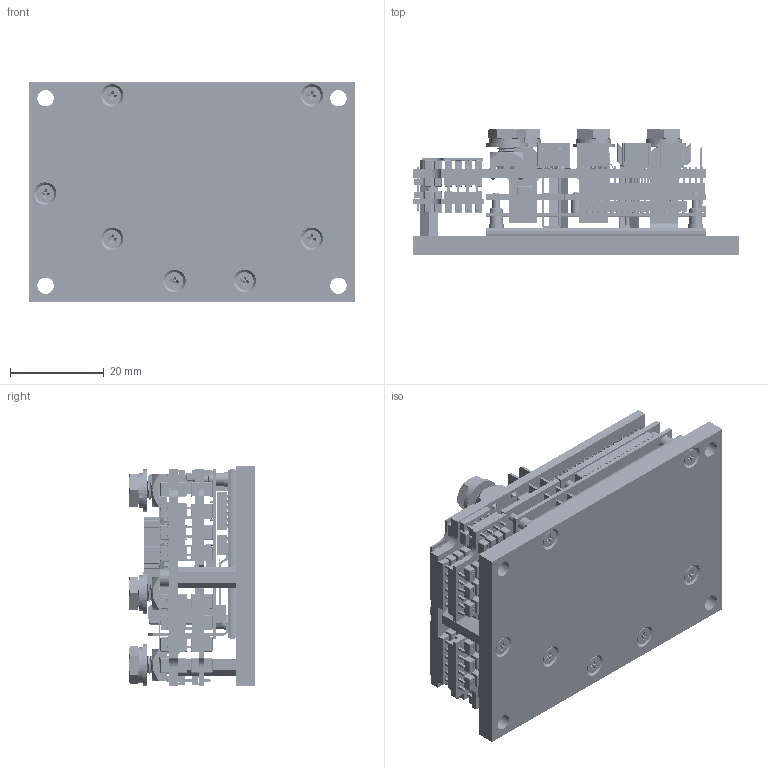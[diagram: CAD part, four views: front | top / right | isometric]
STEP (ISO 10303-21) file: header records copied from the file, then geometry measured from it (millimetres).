
FILE_DESCRIPTION (( 'STEP AP203' ), '1' );
FILE_NAME ('G-SOLTWID CAN.STEP', '2019-06-10T12:41:50', ( 'user' ), ( 'Microsoft' ), 'SwSTEP 2.0', 'SolidWorks 2018', '' );
FILE_SCHEMA (( 'CONFIG_CONTROL_DESIGN' ));
Products named in the file (1): G-SOLTWID CAN
Bounding box: 69.5 x 26.94 x 47 mm (x, y, z)
Surface area: 35881.5 mm2 (no closed solid volume)
Topology: 0 solids, 1092 shells, 5924 faces, 27097 edges, 21899 vertices
Faces by surface type: plane 4187, bspline 738, cylinder 718, cone 141, sphere 127, torus 13
Full cylindrical faces by diameter (mm): 0.194 x7, 0.406 x14, 0.535 x9, 0.6 x26, 0.7 x1, 0.8 x117, 0.805 x11, 0.864 x15, 1.02 x1, 1.2 x8, 1.3 x4, 1.6 x14, 1.8 x3, 2 x1, 2.4 x3, 2.8 x3, 3.1 x3, 3.2 x3, 3.5 x10, 3.8 x10, 4.3 x1, 9 x5
Entity records: 358671 total; most frequent: CARTESIAN_POINT 159598, ORIENTED_EDGE 35628, DIRECTION 33667, EDGE_CURVE 26564, VERTEX_POINT 21817, LINE 18749, VECTOR 18749, EDGE_LOOP 7845
